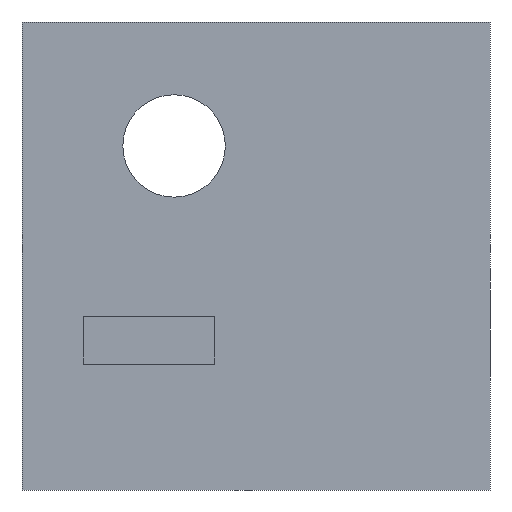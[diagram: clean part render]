
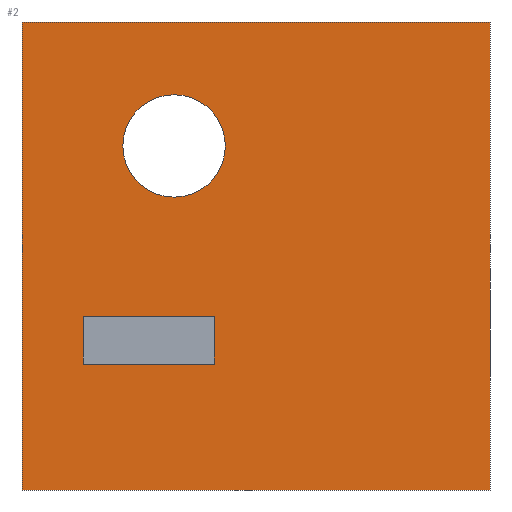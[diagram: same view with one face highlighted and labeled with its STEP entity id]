
A CAD part, front view. The second image highlights one B-rep face of the part: STEP entity #2.
In plain terms, the highlighted planar face has unit normal (0, -1, 0).
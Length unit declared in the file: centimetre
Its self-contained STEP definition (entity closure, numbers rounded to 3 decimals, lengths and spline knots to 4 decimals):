
#2 = ADVANCED_FACE ( 'NONE', ( #198, #128, #363 ), #358, .F. ) ;
#11 = DIRECTION ( 'NONE',  ( 0., 0., 1. ) ) ;
#13 = DIRECTION ( 'NONE',  ( 0., -1., 0. ) ) ;
#20 = DIRECTION ( 'NONE',  ( 0., 0., 1. ) ) ;
#22 = CARTESIAN_POINT ( 'NONE',  ( 411.0174, 0., 269.0079 ) ) ;
#29 = LINE ( 'NONE', #283, #96 ) ;
#40 = VERTEX_POINT ( 'NONE', #189 ) ;
#45 = VERTEX_POINT ( 'NONE', #259 ) ;
#52 = CARTESIAN_POINT ( 'NONE',  ( 325.0467, 0., 844.6291 ) ) ;
#55 = CARTESIAN_POINT ( 'NONE',  ( 1000., 0., 1000. ) ) ;
#66 = CARTESIAN_POINT ( 'NONE',  ( 0., 0., 1000. ) ) ;
#75 = CARTESIAN_POINT ( 'NONE',  ( 0., 0., 0. ) ) ;
#82 = AXIS2_PLACEMENT_3D ( 'NONE', #565, #508, #84 ) ;
#84 = DIRECTION ( 'NONE',  ( 0., 0., -1. ) ) ;
#96 = VECTOR ( 'NONE', #103, 100. ) ;
#101 = VERTEX_POINT ( 'NONE', #603 ) ;
#103 = DIRECTION ( 'NONE',  ( 0., 0., -1. ) ) ;
#121 = CARTESIAN_POINT ( 'NONE',  ( 0., 0., 0. ) ) ;
#122 = EDGE_CURVE ( 'NONE', #254, #592, #233, .T. ) ;
#126 = CARTESIAN_POINT ( 'NONE',  ( 411.0174, 0., 371.1572 ) ) ;
#128 = FACE_BOUND ( 'NONE', #586, .T. ) ;
#130 = ORIENTED_EDGE ( 'NONE', *, *, #704, .F. ) ;
#131 = VERTEX_POINT ( 'NONE', #247 ) ;
#134 = CARTESIAN_POINT ( 'NONE',  ( 0., 0., 1000. ) ) ;
#189 = CARTESIAN_POINT ( 'NONE',  ( 130.4643, 0., 269.0079 ) ) ;
#198 = FACE_BOUND ( 'NONE', #409, .T. ) ;
#203 = ORIENTED_EDGE ( 'NONE', *, *, #389, .T. ) ;
#228 = CARTESIAN_POINT ( 'NONE',  ( 130.4643, 0., 269.0079 ) ) ;
#233 = CIRCLE ( 'NONE', #82, 109.4495 ) ;
#247 = CARTESIAN_POINT ( 'NONE',  ( 411.0174, 0., 269.0079 ) ) ;
#254 = VERTEX_POINT ( 'NONE', #52 ) ;
#259 = CARTESIAN_POINT ( 'NONE',  ( 130.4643, 0., 371.1572 ) ) ;
#278 = LINE ( 'NONE', #531, #545 ) ;
#283 = CARTESIAN_POINT ( 'NONE',  ( 1000., 0., 1000. ) ) ;
#288 = AXIS2_PLACEMENT_3D ( 'NONE', #309, #13, #561 ) ;
#294 = EDGE_CURVE ( 'NONE', #45, #40, #396, .T. ) ;
#303 = LINE ( 'NONE', #66, #614 ) ;
#309 = CARTESIAN_POINT ( 'NONE',  ( 325.0467, 0., 735.1796 ) ) ;
#333 = ORIENTED_EDGE ( 'NONE', *, *, #439, .F. ) ;
#340 = DIRECTION ( 'NONE',  ( 1., 0., 0. ) ) ;
#352 = VERTEX_POINT ( 'NONE', #121 ) ;
#358 = PLANE ( 'NONE',  #567 ) ;
#361 = DIRECTION ( 'NONE',  ( -1., 0., 0. ) ) ;
#363 = FACE_OUTER_BOUND ( 'NONE', #714, .T. ) ;
#368 = DIRECTION ( 'NONE',  ( 0., 1., 0. ) ) ;
#374 = LINE ( 'NONE', #22, #628 ) ;
#389 = EDGE_CURVE ( 'NONE', #352, #101, #408, .T. ) ;
#394 = VERTEX_POINT ( 'NONE', #126 ) ;
#396 = LINE ( 'NONE', #228, #529 ) ;
#397 = EDGE_CURVE ( 'NONE', #619, #426, #303, .T. ) ;
#405 = ORIENTED_EDGE ( 'NONE', *, *, #397, .F. ) ;
#408 = LINE ( 'NONE', #75, #771 ) ;
#409 = EDGE_LOOP ( 'NONE', ( #333, #750 ) ) ;
#424 = ORIENTED_EDGE ( 'NONE', *, *, #701, .F. ) ;
#426 = VERTEX_POINT ( 'NONE', #55 ) ;
#427 = DIRECTION ( 'NONE',  ( 1., 0., 0. ) ) ;
#429 = EDGE_CURVE ( 'NONE', #394, #45, #558, .T. ) ;
#439 = EDGE_CURVE ( 'NONE', #592, #254, #544, .T. ) ;
#457 = CARTESIAN_POINT ( 'NONE',  ( 0., 0., 1000. ) ) ;
#463 = VECTOR ( 'NONE', #638, 100. ) ;
#488 = ORIENTED_EDGE ( 'NONE', *, *, #294, .F. ) ;
#502 = DIRECTION ( 'NONE',  ( 1., 0., 0. ) ) ;
#508 = DIRECTION ( 'NONE',  ( 0., -1., 0. ) ) ;
#516 = VECTOR ( 'NONE', #361, 100. ) ;
#517 = ORIENTED_EDGE ( 'NONE', *, *, #546, .T. ) ;
#527 = EDGE_CURVE ( 'NONE', #131, #394, #374, .T. ) ;
#529 = VECTOR ( 'NONE', #660, 100. ) ;
#531 = CARTESIAN_POINT ( 'NONE',  ( 130.4643, 0., 269.0079 ) ) ;
#537 = ORIENTED_EDGE ( 'NONE', *, *, #527, .F. ) ;
#544 = CIRCLE ( 'NONE', #288, 109.4495 ) ;
#545 = VECTOR ( 'NONE', #340, 100. ) ;
#546 = EDGE_CURVE ( 'NONE', #619, #352, #703, .T. ) ;
#558 = LINE ( 'NONE', #692, #516 ) ;
#561 = DIRECTION ( 'NONE',  ( 0., 0., -1. ) ) ;
#565 = CARTESIAN_POINT ( 'NONE',  ( 325.0467, 0., 735.1796 ) ) ;
#567 = AXIS2_PLACEMENT_3D ( 'NONE', #134, #368, #11 ) ;
#572 = CARTESIAN_POINT ( 'NONE',  ( 325.0467, 0., 625.7301 ) ) ;
#586 = EDGE_LOOP ( 'NONE', ( #130, #488, #655, #537 ) ) ;
#592 = VERTEX_POINT ( 'NONE', #572 ) ;
#603 = CARTESIAN_POINT ( 'NONE',  ( 1000., 0., 0. ) ) ;
#614 = VECTOR ( 'NONE', #427, 100. ) ;
#619 = VERTEX_POINT ( 'NONE', #759 ) ;
#628 = VECTOR ( 'NONE', #20, 100. ) ;
#638 = DIRECTION ( 'NONE',  ( 0., 0., -1. ) ) ;
#655 = ORIENTED_EDGE ( 'NONE', *, *, #429, .F. ) ;
#660 = DIRECTION ( 'NONE',  ( 0., 0., -1. ) ) ;
#692 = CARTESIAN_POINT ( 'NONE',  ( 130.4643, 0., 371.1572 ) ) ;
#701 = EDGE_CURVE ( 'NONE', #426, #101, #29, .T. ) ;
#703 = LINE ( 'NONE', #457, #463 ) ;
#704 = EDGE_CURVE ( 'NONE', #40, #131, #278, .T. ) ;
#714 = EDGE_LOOP ( 'NONE', ( #203, #424, #405, #517 ) ) ;
#750 = ORIENTED_EDGE ( 'NONE', *, *, #122, .F. ) ;
#759 = CARTESIAN_POINT ( 'NONE',  ( 0., 0., 1000. ) ) ;
#771 = VECTOR ( 'NONE', #502, 100. ) ;
